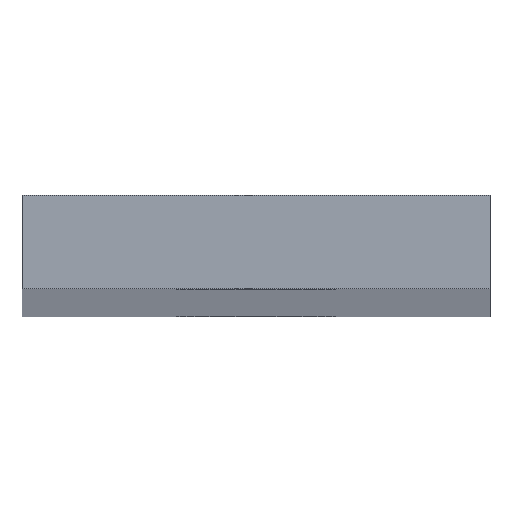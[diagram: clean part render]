
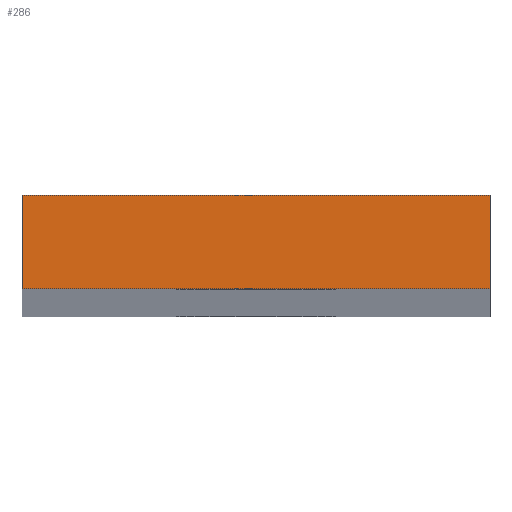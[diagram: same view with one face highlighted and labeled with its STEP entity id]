
A CAD part, top view. The second image highlights one B-rep face of the part: STEP entity #286.
In plain terms, the highlighted planar face has unit normal (0, 0, 1).
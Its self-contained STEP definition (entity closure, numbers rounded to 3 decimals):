
#50=PLANE('',#333);
#71=FACE_OUTER_BOUND('',#92,.T.);
#92=EDGE_LOOP('',(#265,#266,#267,#268));
#107=LINE('',#476,#128);
#109=LINE('',#480,#130);
#111=LINE('',#484,#132);
#113=LINE('',#487,#134);
#128=VECTOR('',#399,10.);
#130=VECTOR('',#403,10.);
#132=VECTOR('',#407,10.);
#134=VECTOR('',#411,10.);
#166=VERTEX_POINT('',#473);
#167=VERTEX_POINT('',#475);
#168=VERTEX_POINT('',#479);
#169=VERTEX_POINT('',#483);
#196=EDGE_CURVE('',#167,#166,#107,.T.);
#198=EDGE_CURVE('',#168,#167,#109,.T.);
#200=EDGE_CURVE('',#169,#168,#111,.T.);
#202=EDGE_CURVE('',#166,#169,#113,.T.);
#265=ORIENTED_EDGE('',*,*,#202,.T.);
#266=ORIENTED_EDGE('',*,*,#200,.T.);
#267=ORIENTED_EDGE('',*,*,#198,.T.);
#268=ORIENTED_EDGE('',*,*,#196,.T.);
#286=ADVANCED_FACE('',(#71),#50,.T.);
#333=AXIS2_PLACEMENT_3D('',#488,#412,#413);
#399=DIRECTION('',(-1.,0.,0.));
#403=DIRECTION('',(0.,1.,0.));
#407=DIRECTION('',(1.,0.,0.));
#411=DIRECTION('',(0.,-1.,0.));
#412=DIRECTION('center_axis',(0.,0.,1.));
#413=DIRECTION('ref_axis',(1.,0.,0.));
#473=CARTESIAN_POINT('',(-5.,2.,173.));
#475=CARTESIAN_POINT('',(5.,2.,173.));
#476=CARTESIAN_POINT('',(5.,2.,173.));
#479=CARTESIAN_POINT('',(5.,0.,173.));
#480=CARTESIAN_POINT('',(5.,0.,173.));
#483=CARTESIAN_POINT('',(-5.,0.,173.));
#484=CARTESIAN_POINT('',(-5.,0.,173.));
#487=CARTESIAN_POINT('',(-5.,2.,173.));
#488=CARTESIAN_POINT('Origin',(0.,1.,173.));
